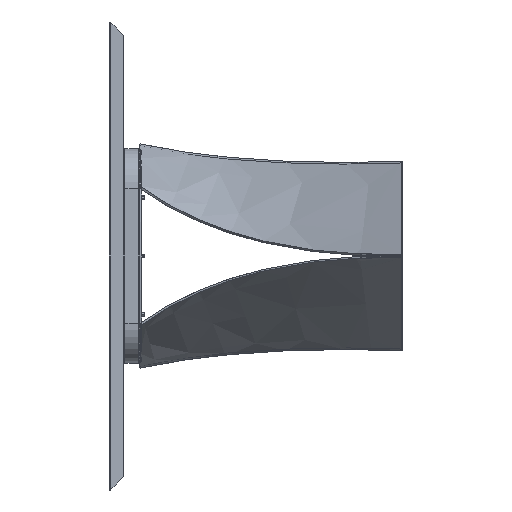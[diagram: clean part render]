
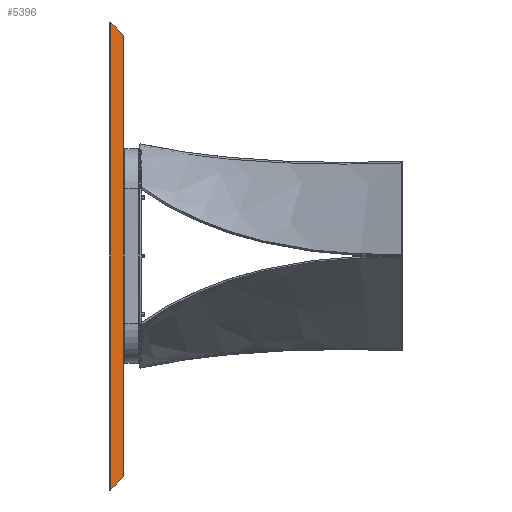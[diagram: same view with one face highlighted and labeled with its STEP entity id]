
A CAD part, left-side view. The second image highlights one B-rep face of the part: STEP entity #5396.
In plain terms, the highlighted planar face has unit normal (-0.707, -0.707, 0).
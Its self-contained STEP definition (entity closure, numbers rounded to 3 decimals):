
#1445 = EDGE_CURVE ( 'NONE', #10512, #13735, #3672, .T. ) ;
#3630 = EDGE_CURVE ( 'NONE', #14429, #12987, #8440, .T. ) ;
#3672 = LINE ( 'NONE', #9933, #17173 ) ;
#4156 = CARTESIAN_POINT ( 'NONE',  ( -1498.536, 33.536, 598.536 ) ) ;
#4195 = VECTOR ( 'NONE', #17414, 1000. ) ;
#4307 = CARTESIAN_POINT ( 'NONE',  ( -1500., 35., -600. ) ) ;
#4665 = CARTESIAN_POINT ( 'NONE',  ( -1500., 35., -600. ) ) ;
#5060 = ORIENTED_EDGE ( 'NONE', *, *, #13343, .T. ) ;
#5346 = CARTESIAN_POINT ( 'NONE',  ( -1499.486, 34.486, 597.585 ) ) ;
#5396 = ADVANCED_FACE ( 'NONE', ( #12757 ), #8836, .F. ) ;
#5734 = ORIENTED_EDGE ( 'NONE', *, *, #1445, .F. ) ;
#5864 = LINE ( 'NONE', #4307, #7866 ) ;
#5930 = EDGE_LOOP ( 'NONE', ( #25164, #19551, #5734, #8067, #17535, #5060 ) ) ;
#6613 = DIRECTION ( 'NONE',  ( 0.707, 0.707, 0. ) ) ;
#7866 = VECTOR ( 'NONE', #19958, 1000. ) ;
#8067 = ORIENTED_EDGE ( 'NONE', *, *, #21845, .T. ) ;
#8134 = CARTESIAN_POINT ( 'NONE',  ( -1499.486, 34.486, -597.585 ) ) ;
#8153 = AXIS2_PLACEMENT_3D ( 'NONE', #4665, #6613, #22529 ) ;
#8440 = LINE ( 'NONE', #18125, #12665 ) ;
#8836 = PLANE ( 'NONE',  #8153 ) ;
#8927 = LINE ( 'NONE', #14928, #4195 ) ;
#9933 = CARTESIAN_POINT ( 'NONE',  ( -1100., -365., 200. ) ) ;
#10512 = VERTEX_POINT ( 'NONE', #4156 ) ;
#12555 = CARTESIAN_POINT ( 'NONE',  ( -1498.536, 33.536, -598.536 ) ) ;
#12665 = VECTOR ( 'NONE', #17861, 1000. ) ;
#12757 = FACE_OUTER_BOUND ( 'NONE', #5930, .T. ) ;
#12987 = VERTEX_POINT ( 'NONE', #20792 ) ;
#13181 = CARTESIAN_POINT ( 'NONE',  ( -1500., 35., 596.344 ) ) ;
#13264 = EDGE_CURVE ( 'NONE', #23577, #13735, #8927, .T. ) ;
#13343 = EDGE_CURVE ( 'NONE', #14429, #18567, #13770, .T. ) ;
#13700 = DIRECTION ( 'NONE',  ( 0.577, -0.577, -0.577 ) ) ;
#13735 = VERTEX_POINT ( 'NONE', #18875 ) ;
#13770 =( BOUNDED_CURVE ( )  B_SPLINE_CURVE ( 3, ( #19617, #23658, #8134, #17915 ),
 .UNSPECIFIED., .F., .F. ) 
 B_SPLINE_CURVE_WITH_KNOTS ( ( 4, 4 ),
 ( 3.142, 3.927 ),
 .UNSPECIFIED. ) 
 CURVE ( )  GEOMETRIC_REPRESENTATION_ITEM ( )  RATIONAL_B_SPLINE_CURVE ( ( 1., 0.949, 0.949, 1. ) ) 
 REPRESENTATION_ITEM ( '' )  );
#13795 = CARTESIAN_POINT ( 'NONE',  ( -1465.293, 0.293, -565.293 ) ) ;
#14429 = VERTEX_POINT ( 'NONE', #25252 ) ;
#14928 = CARTESIAN_POINT ( 'NONE',  ( -1465.293, 0.293, 565. ) ) ;
#15388 = CARTESIAN_POINT ( 'NONE',  ( -1498.536, 33.536, 598.536 ) ) ;
#17173 = VECTOR ( 'NONE', #13700, 1000. ) ;
#17414 = DIRECTION ( 'NONE',  ( 0., 0., 1. ) ) ;
#17535 = ORIENTED_EDGE ( 'NONE', *, *, #3630, .F. ) ;
#17861 = DIRECTION ( 'NONE',  ( 0., 0., 1. ) ) ;
#17915 = CARTESIAN_POINT ( 'NONE',  ( -1498.536, 33.536, -598.536 ) ) ;
#18125 = CARTESIAN_POINT ( 'NONE',  ( -1500., 35., -600. ) ) ;
#18567 = VERTEX_POINT ( 'NONE', #12555 ) ;
#18875 = CARTESIAN_POINT ( 'NONE',  ( -1465.293, 0.293, 565.293 ) ) ;
#19113 =( BOUNDED_CURVE ( )  B_SPLINE_CURVE ( 3, ( #15388, #5346, #13181, #23215 ),
 .UNSPECIFIED., .F., .F. ) 
 B_SPLINE_CURVE_WITH_KNOTS ( ( 4, 4 ),
 ( 2.356, 3.142 ),
 .UNSPECIFIED. ) 
 CURVE ( )  GEOMETRIC_REPRESENTATION_ITEM ( )  RATIONAL_B_SPLINE_CURVE ( ( 1., 0.949, 0.949, 1. ) ) 
 REPRESENTATION_ITEM ( '' )  );
#19551 = ORIENTED_EDGE ( 'NONE', *, *, #13264, .T. ) ;
#19617 = CARTESIAN_POINT ( 'NONE',  ( -1500., 35., -595. ) ) ;
#19958 = DIRECTION ( 'NONE',  ( 0.577, -0.577, 0.577 ) ) ;
#20792 = CARTESIAN_POINT ( 'NONE',  ( -1500., 35., 595. ) ) ;
#20953 = EDGE_CURVE ( 'NONE', #18567, #23577, #5864, .T. ) ;
#21845 = EDGE_CURVE ( 'NONE', #10512, #12987, #19113, .T. ) ;
#22529 = DIRECTION ( 'NONE',  ( 0., 0., 1. ) ) ;
#23215 = CARTESIAN_POINT ( 'NONE',  ( -1500., 35., 595. ) ) ;
#23577 = VERTEX_POINT ( 'NONE', #13795 ) ;
#23658 = CARTESIAN_POINT ( 'NONE',  ( -1500., 35., -596.344 ) ) ;
#25164 = ORIENTED_EDGE ( 'NONE', *, *, #20953, .T. ) ;
#25252 = CARTESIAN_POINT ( 'NONE',  ( -1500., 35., -595. ) ) ;
